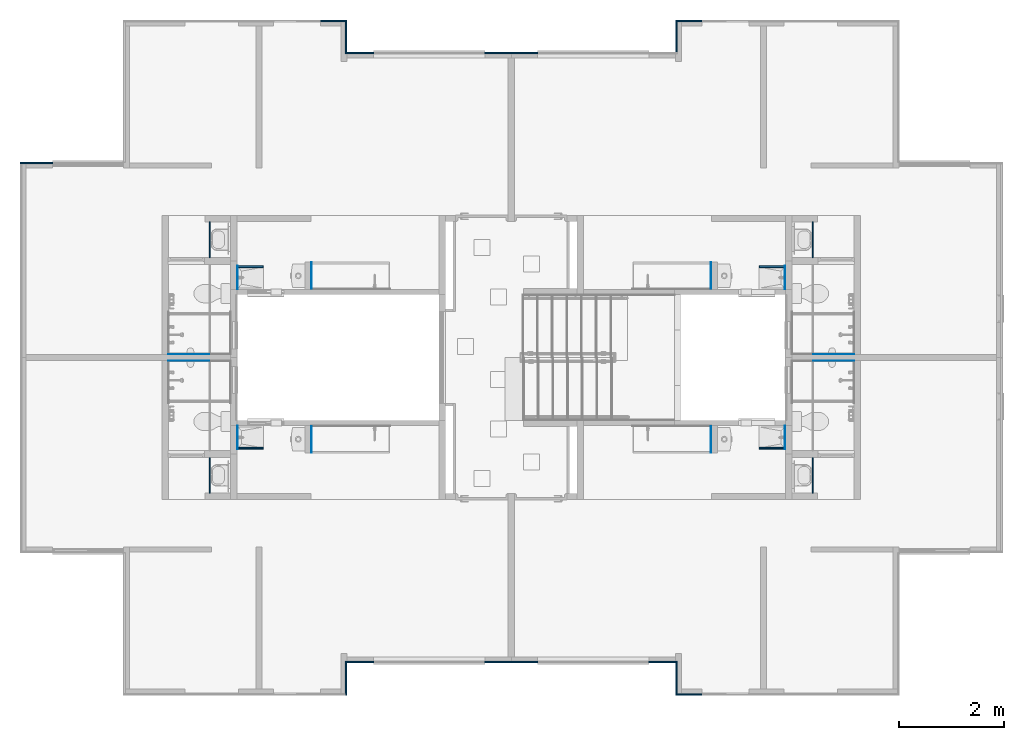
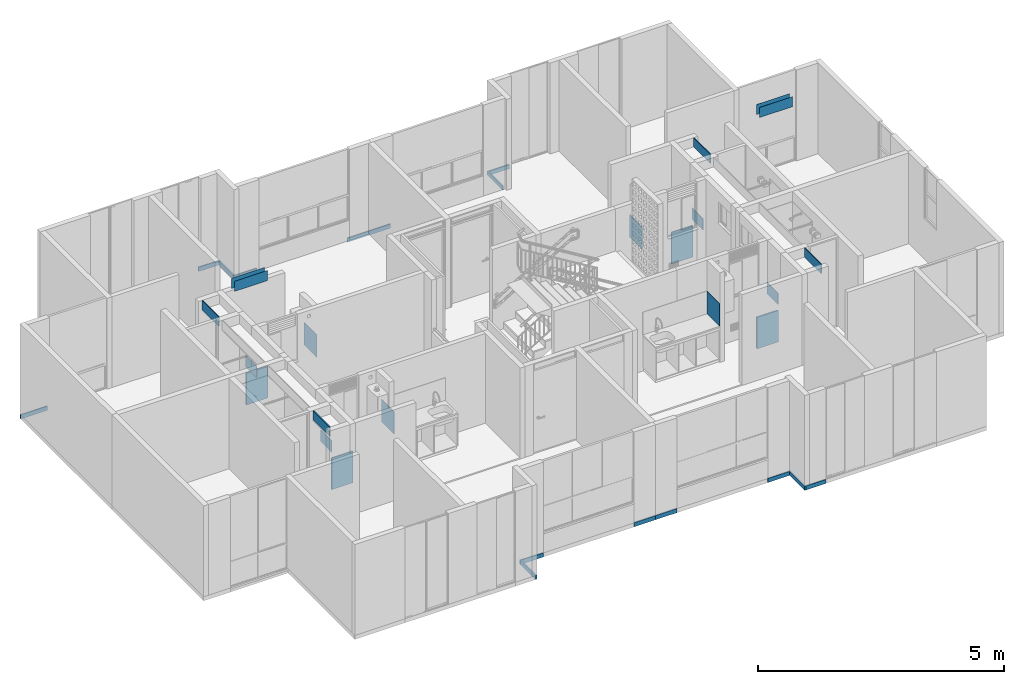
# One storey, part 27 of 48: 35 walls.
"""IFC4 building model written with IfcOpenShell, lengths in metres."""

from ifc_helpers import new_model, entity, si_unit, converted_unit, derived_unit, direction, frame, origin, place, context, subcontext, project, spatial, indexed_curve, outline, extrude, material, constituent, constituent_set, type_object, element, save


model = new_model("IFC4")

# Units and contexts
model_context = context("Model", 3, precision=1e-05, world=origin(), true_north=direction((6.123031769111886e-17, 1.0)))
body_context = subcontext(model_context, "Body", "Model", "MODEL_VIEW")
ifc_project = project(units=[si_unit("LENGTHUNIT", "METRE"), si_unit("AREAUNIT", "SQUARE_METRE"), si_unit("VOLUMEUNIT", "CUBIC_METRE"), converted_unit("PLANEANGLEUNIT", "DEGREE", entity("IfcRatioMeasure", 0.017453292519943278), si_unit("PLANEANGLEUNIT", "RADIAN"), dimensions=[0, 0, 0, 0, 0, 0, 0]), si_unit("MASSUNIT", "GRAM", prefix="KILO"), derived_unit("MASSDENSITYUNIT", [(si_unit("MASSUNIT", "GRAM", prefix="KILO"), 1), (si_unit("LENGTHUNIT", "METRE"), -3)]), derived_unit("IONCONCENTRATIONUNIT", [(si_unit("MASSUNIT", "GRAM", prefix="KILO"), 1), (si_unit("LENGTHUNIT", "METRE"), -3)]), derived_unit("MOMENTOFINERTIAUNIT", [(si_unit("LENGTHUNIT", "METRE"), 4)]), si_unit("TIMEUNIT", "SECOND"), si_unit("FREQUENCYUNIT", "HERTZ"), si_unit("THERMODYNAMICTEMPERATUREUNIT", "DEGREE_CELSIUS"), derived_unit("THERMALTRANSMITTANCEUNIT", [(si_unit("MASSUNIT", "GRAM", prefix="KILO"), 1), (si_unit("THERMODYNAMICTEMPERATUREUNIT", "KELVIN"), -1), (si_unit("TIMEUNIT", "SECOND"), -3)]), derived_unit("THERMALCONDUCTANCEUNIT", [(si_unit("MASSUNIT", "GRAM", prefix="KILO"), 1), (si_unit("THERMODYNAMICTEMPERATUREUNIT", "KELVIN"), -1), (si_unit("TIMEUNIT", "SECOND"), -3), (si_unit("LENGTHUNIT", "METRE"), 1)]), derived_unit("VOLUMETRICFLOWRATEUNIT", [(si_unit("LENGTHUNIT", "METRE"), 3), (si_unit("TIMEUNIT", "SECOND"), -1)]), derived_unit("MASSFLOWRATEUNIT", [(si_unit("MASSUNIT", "GRAM", prefix="KILO"), 1), (si_unit("TIMEUNIT", "SECOND"), -1)]), derived_unit("ROTATIONALFREQUENCYUNIT", [(si_unit("TIMEUNIT", "SECOND"), -1)]), si_unit("ELECTRICCURRENTUNIT", "AMPERE"), si_unit("ELECTRICVOLTAGEUNIT", "VOLT"), si_unit("POWERUNIT", "WATT"), si_unit("FORCEUNIT", "NEWTON", prefix="KILO"), si_unit("ILLUMINANCEUNIT", "LUX"), si_unit("LUMINOUSFLUXUNIT", "LUMEN"), si_unit("LUMINOUSINTENSITYUNIT", "CANDELA"), derived_unit("USERDEFINED", [(si_unit("MASSUNIT", "GRAM", prefix="KILO"), -1), (si_unit("LENGTHUNIT", "METRE"), -2), (si_unit("TIMEUNIT", "SECOND"), 3), (si_unit("LUMINOUSFLUXUNIT", "LUMEN"), 1)]), derived_unit("USERDEFINED", [(si_unit("MASSUNIT", "GRAM", prefix="KILO"), 1), (si_unit("TIMEUNIT", "SECOND"), -3), (si_unit("LENGTHUNIT", "METRE"), 3), (si_unit("ELECTRICCURRENTUNIT", "AMPERE"), -2)]), derived_unit("SOUNDPOWERUNIT", [(si_unit("MASSUNIT", "GRAM", prefix="KILO"), 1), (si_unit("TIMEUNIT", "SECOND"), -3), (si_unit("LENGTHUNIT", "METRE"), 2)]), derived_unit("SOUNDPRESSUREUNIT", [(si_unit("MASSUNIT", "GRAM", prefix="KILO"), 1), (si_unit("LENGTHUNIT", "METRE"), -1), (si_unit("TIMEUNIT", "SECOND"), -2)]), derived_unit("LINEARVELOCITYUNIT", [(si_unit("LENGTHUNIT", "METRE"), 1), (si_unit("TIMEUNIT", "SECOND"), -1)]), si_unit("PRESSUREUNIT", "PASCAL"), derived_unit("USERDEFINED", [(si_unit("MASSUNIT", "GRAM", prefix="KILO"), 1), (si_unit("LENGTHUNIT", "METRE"), -2), (si_unit("TIMEUNIT", "SECOND"), -2)]), derived_unit("LINEARFORCEUNIT", [(si_unit("MASSUNIT", "GRAM", prefix="KILO"), 1), (si_unit("TIMEUNIT", "SECOND"), -2)]), derived_unit("PLANARFORCEUNIT", [(si_unit("MASSUNIT", "GRAM", prefix="KILO"), 1), (si_unit("LENGTHUNIT", "METRE"), -1), (si_unit("TIMEUNIT", "SECOND"), -2)]), derived_unit("SPECIFICHEATCAPACITYUNIT", [(si_unit("THERMODYNAMICTEMPERATUREUNIT", "KELVIN"), -1), (si_unit("LENGTHUNIT", "METRE"), 2), (si_unit("TIMEUNIT", "SECOND"), -2)]), derived_unit("HEATINGVALUEUNIT", [(si_unit("LENGTHUNIT", "METRE"), 2), (si_unit("TIMEUNIT", "SECOND"), -2)]), derived_unit("VAPORPERMEABILITYUNIT", [(si_unit("LENGTHUNIT", "METRE"), -1), (si_unit("TIMEUNIT", "SECOND"), 1)]), derived_unit("DYNAMICVISCOSITYUNIT", [(si_unit("MASSUNIT", "GRAM", prefix="KILO"), 1), (si_unit("TIMEUNIT", "SECOND"), -1), (si_unit("LENGTHUNIT", "METRE"), -1)]), derived_unit("THERMALEXPANSIONCOEFFICIENTUNIT", [(si_unit("THERMODYNAMICTEMPERATUREUNIT", "KELVIN"), -1)]), derived_unit("MODULUSOFELASTICITYUNIT", [(si_unit("MASSUNIT", "GRAM", prefix="KILO"), 1), (si_unit("LENGTHUNIT", "METRE"), -1), (si_unit("TIMEUNIT", "SECOND"), -2)]), derived_unit("ISOTHERMALMOISTURECAPACITYUNIT", [(si_unit("LENGTHUNIT", "METRE"), 3), (si_unit("MASSUNIT", "GRAM", prefix="KILO"), -1)]), derived_unit("MOISTUREDIFFUSIVITYUNIT", [(si_unit("TIMEUNIT", "SECOND"), -1), (si_unit("LENGTHUNIT", "METRE"), 2)])], contexts=[model_context])

# Site, building, storey
site_placement = place(None, origin())
site = spatial("IfcSite", under=ifc_project, at=site_placement, Name="Default", CompositionType="ELEMENT")
building_placement = place(site_placement, origin())
building = spatial("IfcBuilding", under=site, at=building_placement, CompositionType="ELEMENT")
storey_placement = place(building_placement, frame((0.0, 0.0, 7.050000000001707)))
storey = spatial("IfcBuildingStorey", under=building, at=storey_placement, Name="Nivel 4", CompositionType="ELEMENT", Elevation=7.050000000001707)

# Walls
ifc_material_1 = material(Name="Plasterboard", Category="Materials")
wall_type_1 = type_object("IfcWallType", Name="Basic Wall:C1070 - 0.02m - Plafón - Drywall", PredefinedType="STANDARD")
wall_1_placement = place(storey_placement, frame((3.5624999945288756, -4.515000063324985, 2.019999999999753), z_axis=(0.0, 0.0, 1.0), x_axis=(0.0, 1.0, 0.0)))
element("IfcWall", 1, at=wall_1_placement, inside=storey, type_object=wall_type_1, material=ifc_material_1, Name="Basic Wall:C1070 - 0.02m - Plafón - Drywall", ObjectType="Basic Wall:C1070 - 0.02m - Plafón - Drywall", PredefinedType="NOTDEFINED", context=body_context, shape_type="SweptSolid", body=[
    extrude(outline(indexed_curve([(0.6800000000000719, 0.009999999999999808), (8.086221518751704e-17, 0.009999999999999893), (-8.086221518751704e-17, -0.009999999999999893), (0.6800000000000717, -0.009999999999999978), (0.6800000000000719, 0.009999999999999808)], self_intersect=False)), origin(), (0.0, 0.0, 1.0), 0.23000000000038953),
])
wall_2_placement = place(storey_placement, frame((3.5624999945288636, -8.334999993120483, 2.019999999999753), z_axis=(0.0, 0.0, 1.0), x_axis=(0.0, -1.0, 0.0)))
element("IfcWall", 2, at=wall_2_placement, inside=storey, type_object=wall_type_1, material=ifc_material_1, Name="Basic Wall:C1070 - 0.02m - Plafón - Drywall", ObjectType="Basic Wall:C1070 - 0.02m - Plafón - Drywall", PredefinedType="NOTDEFINED", context=body_context, shape_type="SweptSolid", body=[
    extrude(outline(indexed_curve([(0.6800000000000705, 0.009999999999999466), (-1.4500026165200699e-16, 0.009999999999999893), (1.4500026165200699e-16, -0.009999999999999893), (0.6800000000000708, -0.01000000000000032), (0.6800000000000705, 0.009999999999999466)], self_intersect=False)), origin(), (0.0, 0.0, 1.0), 0.23000000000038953),
])
wall_3_placement = place(storey_placement, frame((15.082500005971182, -4.515000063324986, 2.019999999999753), z_axis=(0.0, 0.0, 1.0), x_axis=(0.0, 1.0, 0.0)))
element("IfcWall", 3, at=wall_3_placement, inside=storey, type_object=wall_type_1, material=ifc_material_1, Name="Basic Wall:C1070 - 0.02m - Plafón - Drywall", ObjectType="Basic Wall:C1070 - 0.02m - Plafón - Drywall", PredefinedType="NOTDEFINED", context=body_context, shape_type="SweptSolid", body=[
    extrude(outline(indexed_curve([(0.6800000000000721, 0.01000000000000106), (-8.086221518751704e-17, 0.009999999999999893), (8.086221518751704e-17, -0.009999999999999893), (0.6800000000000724, -0.009999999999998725), (0.6800000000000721, 0.01000000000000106)], self_intersect=False)), origin(), (0.0, 0.0, 1.0), 0.23000000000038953),
])
wall_4_placement = place(storey_placement, frame((15.082500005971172, -8.334999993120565, 2.019999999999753), z_axis=(0.0, 0.0, 1.0), x_axis=(0.0, -1.0, 0.0)))
element("IfcWall", 4, at=wall_4_placement, inside=storey, type_object=wall_type_1, material=ifc_material_1, Name="Basic Wall:C1070 - 0.02m - Plafón - Drywall", ObjectType="Basic Wall:C1070 - 0.02m - Plafón - Drywall", PredefinedType="NOTDEFINED", context=body_context, shape_type="SweptSolid", body=[
    extrude(outline(indexed_curve([(0.6800000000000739, 0.009999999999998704), (1.74650790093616e-17, 0.009999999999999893), (-1.74650790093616e-17, -0.009999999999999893), (0.6800000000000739, -0.010000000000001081), (0.6800000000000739, 0.009999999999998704)], self_intersect=False)), origin(), (0.0, 0.0, 1.0), 0.23000000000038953),
])
ifc_material_2 = material(Name="Ceramica Salpicadero 0.28m x 0.45m", Category="Materials")
wall_type_2 = type_object("IfcWallType", Name="Basic Wall:C2010 - 0.28 x 0.45 - Salpicadero - Cerámica", PredefinedType="STANDARD")
wall_5_placement = place(storey_placement, frame((4.092499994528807, -4.67500002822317, 0.9299999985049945), z_axis=(0.0, 0.0, 1.0), x_axis=(0.0, -1.0, 0.0)))
element("IfcWall", 5, at=wall_5_placement, inside=storey, type_object=wall_type_2, material=ifc_material_2, Name="Basic Wall:C2010 - 0.28 x 0.45 - Salpicadero - Cerámica", ObjectType="Basic Wall:C2010 - 0.28 x 0.45 - Salpicadero - Cerámica", PredefinedType="NOTDEFINED", context=body_context, shape_type="SweptSolid", body=[
    extrude(outline(indexed_curve([(0.44949999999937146, 0.004999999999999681), (-8.738326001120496e-17, 0.004999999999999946), (8.738326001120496e-17, -0.004999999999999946), (0.4494999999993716, -0.005000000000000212), (0.44949999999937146, 0.004999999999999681)], self_intersect=False)), origin(), (0.0, 0.0, 1.0), 0.28000000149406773),
])
wall_6_placement = place(storey_placement, frame((4.092499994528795, -8.175000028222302, 0.9299999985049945), z_axis=(0.0, 0.0, 1.0), x_axis=(0.0, 1.0, 0.0)))
element("IfcWall", 6, at=wall_6_placement, inside=storey, type_object=wall_type_2, material=ifc_material_2, Name="Basic Wall:C2010 - 0.28 x 0.45 - Salpicadero - Cerámica", ObjectType="Basic Wall:C2010 - 0.28 x 0.45 - Salpicadero - Cerámica", PredefinedType="NOTDEFINED", context=body_context, shape_type="SweptSolid", body=[
    extrude(outline(indexed_curve([(0.4494999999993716, 0.004999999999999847), (5.531423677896e-17, 0.004999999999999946), (-5.531423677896e-17, -0.004999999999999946), (0.44949999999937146, -0.005000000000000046), (0.4494999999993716, 0.004999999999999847)], self_intersect=False)), origin(), (0.0, 0.0, 1.0), 0.28000000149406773),
])
wall_7_placement = place(storey_placement, frame((14.55250000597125, -4.67500002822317, 0.9299999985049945), z_axis=(0.0, 0.0, 1.0), x_axis=(0.0, -1.0, 0.0)))
element("IfcWall", 7, at=wall_7_placement, inside=storey, type_object=wall_type_2, material=ifc_material_2, Name="Basic Wall:C2010 - 0.28 x 0.45 - Salpicadero - Cerámica", ObjectType="Basic Wall:C2010 - 0.28 x 0.45 - Salpicadero - Cerámica", PredefinedType="NOTDEFINED", context=body_context, shape_type="SweptSolid", body=[
    extrude(outline(indexed_curve([(0.4494999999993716, 0.005000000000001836), (8.738326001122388e-17, 0.005000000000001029), (-8.738326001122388e-17, -0.005000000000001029), (0.44949999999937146, -0.005000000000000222), (0.4494999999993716, 0.005000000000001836)], self_intersect=False)), origin(), (0.0, 0.0, 1.0), 0.28000000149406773),
])
wall_8_placement = place(storey_placement, frame((14.55250000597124, -8.175000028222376, 0.9299999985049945), z_axis=(0.0, 0.0, 1.0), x_axis=(0.0, 1.0, 0.0)))
element("IfcWall", 8, at=wall_8_placement, inside=storey, type_object=wall_type_2, material=ifc_material_2, Name="Basic Wall:C2010 - 0.28 x 0.45 - Salpicadero - Cerámica", ObjectType="Basic Wall:C2010 - 0.28 x 0.45 - Salpicadero - Cerámica", PredefinedType="NOTDEFINED", context=body_context, shape_type="SweptSolid", body=[
    extrude(outline(indexed_curve([(0.4494999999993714, 0.005000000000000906), (-1.1908182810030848e-16, 0.005000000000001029), (1.1908182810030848e-16, -0.005000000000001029), (0.4494999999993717, -0.005000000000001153), (0.4494999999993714, 0.005000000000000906)], self_intersect=False)), origin(), (0.0, 0.0, 1.0), 0.28000000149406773),
])
wall_9_placement = place(storey_placement, frame((5.507499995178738, -4.605000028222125, 0.9299999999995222), z_axis=(0.0, 0.0, 1.0), x_axis=(0.0, -1.0, 0.0)))
element("IfcWall", 9, at=wall_9_placement, inside=storey, type_object=wall_type_2, material=ifc_material_2, Name="Basic Wall:C2010 - 0.28 x 0.45 - Salpicadero - Cerámica", ObjectType="Basic Wall:C2010 - 0.28 x 0.45 - Salpicadero - Cerámica", PredefinedType="NOTDEFINED", context=body_context, shape_type="SweptSolid", body=[
    extrude(outline(indexed_curve([(0.5100000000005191, 0.005000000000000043), (-2.217940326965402e-17, 0.004999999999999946), (2.217940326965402e-17, -0.004999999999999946), (0.5100000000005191, -0.00499999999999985), (0.5100000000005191, 0.005000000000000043)], self_intersect=False)), origin(), (0.0, 0.0, 1.0), 0.5599999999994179),
])
wall_10_placement = place(storey_placement, frame((5.507499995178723, -8.245000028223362, 0.9299999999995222), z_axis=(0.0, 0.0, 1.0), x_axis=(0.0, 1.0, 0.0)))
element("IfcWall", 10, at=wall_10_placement, inside=storey, type_object=wall_type_2, material=ifc_material_2, Name="Basic Wall:C2010 - 0.28 x 0.45 - Salpicadero - Cerámica", ObjectType="Basic Wall:C2010 - 0.28 x 0.45 - Salpicadero - Cerámica", PredefinedType="NOTDEFINED", context=body_context, shape_type="SweptSolid", body=[
    extrude(outline(indexed_curve([(0.5100000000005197, 0.0049999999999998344), (-9.519164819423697e-18, 0.004999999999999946), (9.519164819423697e-18, -0.004999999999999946), (0.5100000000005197, -0.005000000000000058), (0.5100000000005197, 0.0049999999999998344)], self_intersect=False)), origin(), (0.0, 0.0, 1.0), 0.5599999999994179),
])
wall_11_placement = place(storey_placement, frame((13.13750000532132, -4.605000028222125, 0.9299999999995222), z_axis=(0.0, 0.0, 1.0), x_axis=(0.0, -1.0, 0.0)))
element("IfcWall", 11, at=wall_11_placement, inside=storey, type_object=wall_type_2, material=ifc_material_2, Name="Basic Wall:C2010 - 0.28 x 0.45 - Salpicadero - Cerámica", ObjectType="Basic Wall:C2010 - 0.28 x 0.45 - Salpicadero - Cerámica", PredefinedType="NOTDEFINED", context=body_context, shape_type="SweptSolid", body=[
    extrude(outline(indexed_curve([(0.5100000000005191, 0.0050000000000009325), (2.2179403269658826e-17, 0.005000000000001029), (-2.2179403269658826e-17, -0.005000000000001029), (0.5100000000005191, -0.005000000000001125), (0.5100000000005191, 0.0050000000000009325)], self_intersect=False)), origin(), (0.0, 0.0, 1.0), 0.5599999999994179),
])
wall_12_placement = place(storey_placement, frame((13.137500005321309, -8.245000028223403, 0.9299999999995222), z_axis=(0.0, 0.0, 1.0), x_axis=(0.0, 1.0, 0.0)))
element("IfcWall", 12, at=wall_12_placement, inside=storey, type_object=wall_type_2, material=ifc_material_2, Name="Basic Wall:C2010 - 0.28 x 0.45 - Salpicadero - Cerámica", ObjectType="Basic Wall:C2010 - 0.28 x 0.45 - Salpicadero - Cerámica", PredefinedType="NOTDEFINED", context=body_context, shape_type="SweptSolid", body=[
    extrude(outline(indexed_curve([(0.5100000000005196, 0.00499999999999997), (-5.3311001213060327e-17, 0.005000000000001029), (5.3311001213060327e-17, -0.005000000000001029), (0.5100000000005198, -0.005000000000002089), (0.5100000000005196, 0.00499999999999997)], self_intersect=False)), origin(), (0.0, 0.0, 1.0), 0.5599999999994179),
])
ifc_material_3 = material(Name="Estuco y pintura", Category="Materials")
ifc_constituent_1 = constituent(ifc_material_3, Name="Estuco y pintura", Category="Materials")
ifc_material_4 = material(Name="0 muro divisorio", Category="Materials")
ifc_constituent_2 = constituent(ifc_material_4, Name="0 muro divisorio", Category="Materials")
ifc_constituent_3 = constituent(ifc_material_3, Name="Estuco y pintura (2)", Category="Materials")
ifc_constituent_set = constituent_set(constituents=[ifc_constituent_1, ifc_constituent_2, ifc_constituent_3], Name="Basic Wall:B2010 - 0.03m - Muro interior en estuco+pintura+ concreto+ estuco+ pintura")
wall_type_3 = type_object("IfcWallType", Name="Basic Wall:B2010 - 0.03m - Muro interior en estuco+pintura+ concreto+ estuco+ pintura", PredefinedType="STANDARD", material=ifc_constituent_set)
wall_13_placement = place(storey_placement, frame((4.087499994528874, -4.6920000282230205, 0.0)))
element("IfcWall", 13, at=wall_13_placement, inside=storey, type_object=wall_type_3, material=ifc_constituent_set, Name="Basic Wall:B2010 - 0.03m - Muro interior en estuco+pintura+ concreto+ estuco+ pintura", ObjectType="Basic Wall:B2010 - 0.03m - Muro interior en estuco+pintura+ concreto+ estuco+ pintura", PredefinedType="NOTDEFINED", context=body_context, shape_type="SweptSolid", body=[
    extrude(outline(indexed_curve([(-0.0009999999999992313, -0.25000023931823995), (0.0010000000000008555, -0.25000023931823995), (0.0009999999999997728, 0.2500002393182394), (-0.001000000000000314, 0.2500002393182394), (-0.0009999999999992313, -0.25000023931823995)], self_intersect=False)), frame((0.25000023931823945, -0.016000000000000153, 0.0), z_axis=(0.0, 0.0, 1.0), x_axis=(0.0, 1.0, 0.0)), (0.0, 0.0, 1.0), 0.7799999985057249),
    extrude(outline(indexed_curve([(-0.0009999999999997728, -0.25000023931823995), (0.001000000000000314, -0.25000023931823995), (0.0009999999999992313, 0.2500002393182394), (-0.0010000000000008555, 0.2500002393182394), (-0.0009999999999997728, -0.25000023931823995)], self_intersect=False)), frame((0.25000023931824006, 0.015999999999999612, 0.0), z_axis=(0.0, 0.0, 1.0), x_axis=(0.0, -1.0, 0.0)), (0.0, 0.0, 1.0), 0.7799999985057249),
    extrude(outline(indexed_curve([(-0.25000023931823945, -0.01500000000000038), (0.2500002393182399, -0.01500000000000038), (0.25000023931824, 0.014999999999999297), (-0.2500002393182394, 0.014999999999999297), (-0.25000023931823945, -0.01500000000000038)], self_intersect=False)), frame((0.25000023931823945, 0.0, 0.0)), (0.0, 0.0, 1.0), 0.7799999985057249),
])
wall_14_placement = place(storey_placement, frame((4.087499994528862, -8.158000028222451, 0.0)))
element("IfcWall", 14, at=wall_14_placement, inside=storey, type_object=wall_type_3, material=ifc_constituent_set, Name="Basic Wall:B2010 - 0.03m - Muro interior en estuco+pintura+ concreto+ estuco+ pintura", ObjectType="Basic Wall:B2010 - 0.03m - Muro interior en estuco+pintura+ concreto+ estuco+ pintura", PredefinedType="NOTDEFINED", context=body_context, shape_type="SweptSolid", body=[
    extrude(outline(indexed_curve([(-0.0010000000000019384, -0.25000023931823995), (0.0009999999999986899, -0.25000023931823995), (0.0010000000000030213, 0.2500002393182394), (-0.000999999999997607, 0.2500002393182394), (-0.0010000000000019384, -0.25000023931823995)], self_intersect=False)), frame((0.2500002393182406, 0.016000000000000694, 0.0), z_axis=(0.0, 0.0, 1.0), x_axis=(0.0, -1.0, 0.0)), (0.0, 0.0, 1.0), 0.7799999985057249),
    extrude(outline(indexed_curve([(-0.0010000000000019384, -0.25000023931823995), (0.000999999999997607, -0.25000023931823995), (0.0010000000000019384, 0.2500002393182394), (-0.000999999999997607, 0.2500002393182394), (-0.0010000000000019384, -0.25000023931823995)], self_intersect=False)), frame((0.25000023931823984, -0.015999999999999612, 0.0), z_axis=(0.0, 0.0, 1.0), x_axis=(0.0, 1.0, 0.0)), (0.0, 0.0, 1.0), 0.7799999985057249),
    extrude(outline(indexed_curve([(-0.25000023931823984, -0.014999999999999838), (0.25000023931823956, -0.014999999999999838), (0.25000023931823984, 0.014999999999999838), (-0.25000023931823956, 0.014999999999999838), (-0.25000023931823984, -0.014999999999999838)], self_intersect=False)), frame((0.25000023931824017, 0.0, 0.0)), (0.0, 0.0, 1.0), 0.7799999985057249),
])
wall_15_placement = place(storey_placement, frame((14.557500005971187, -4.6920000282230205, 0.0), z_axis=(0.0, 0.0, 1.0), x_axis=(-1.0, 0.0, 0.0)))
element("IfcWall", 15, at=wall_15_placement, inside=storey, type_object=wall_type_3, material=ifc_constituent_set, Name="Basic Wall:B2010 - 0.03m - Muro interior en estuco+pintura+ concreto+ estuco+ pintura", ObjectType="Basic Wall:B2010 - 0.03m - Muro interior en estuco+pintura+ concreto+ estuco+ pintura", PredefinedType="NOTDEFINED", context=body_context, shape_type="SweptSolid", body=[
    extrude(outline(indexed_curve([(-0.0010000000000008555, -0.25000023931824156), (0.0009999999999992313, -0.25000023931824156), (0.001000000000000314, 0.2500002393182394), (-0.0009999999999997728, 0.2500002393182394), (-0.0010000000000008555, -0.25000023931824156)], self_intersect=False)), frame((0.25000023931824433, 0.015999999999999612, 0.0), z_axis=(0.0, 0.0, 1.0), x_axis=(0.0, -1.0, 0.0)), (0.0, 0.0, 1.0), 0.7799999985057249),
    extrude(outline(indexed_curve([(-0.001000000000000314, -0.25000023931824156), (0.0009999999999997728, -0.25000023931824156), (0.0010000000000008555, 0.25000023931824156), (-0.0009999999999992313, 0.25000023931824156), (-0.001000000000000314, -0.25000023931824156)], self_intersect=False)), frame((0.2500002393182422, -0.016000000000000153, 0.0), z_axis=(0.0, 0.0, 1.0), x_axis=(0.0, 1.0, 0.0)), (0.0, 0.0, 1.0), 0.7799999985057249),
    extrude(outline(indexed_curve([(-0.25000023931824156, -0.01500000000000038), (0.2500002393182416, -0.01500000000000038), (0.25000023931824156, 0.014999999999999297), (-0.25000023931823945, 0.014999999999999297), (-0.25000023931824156, -0.01500000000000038)], self_intersect=False)), frame((0.25000023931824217, 0.0, 0.0)), (0.0, 0.0, 1.0), 0.7799999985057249),
])
wall_16_placement = place(storey_placement, frame((14.557500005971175, -8.158000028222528, 0.0), z_axis=(0.0, 0.0, 1.0), x_axis=(-1.0, 0.0, 0.0)))
element("IfcWall", 16, at=wall_16_placement, inside=storey, type_object=wall_type_3, material=ifc_constituent_set, Name="Basic Wall:B2010 - 0.03m - Muro interior en estuco+pintura+ concreto+ estuco+ pintura", ObjectType="Basic Wall:B2010 - 0.03m - Muro interior en estuco+pintura+ concreto+ estuco+ pintura", PredefinedType="NOTDEFINED", context=body_context, shape_type="SweptSolid", body=[
    extrude(outline(indexed_curve([(-0.0010000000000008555, -0.2500002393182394), (0.0009999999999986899, -0.2500002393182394), (0.0010000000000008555, 0.2500002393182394), (-0.0009999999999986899, 0.2500002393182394), (-0.0010000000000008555, -0.2500002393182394)], self_intersect=False)), frame((0.25000023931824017, -0.015999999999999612, 0.0), z_axis=(0.0, 0.0, 1.0), x_axis=(0.0, 1.0, 0.0)), (0.0, 0.0, 1.0), 0.7799999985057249),
    extrude(outline(indexed_curve([(-0.0010000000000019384, -0.2500002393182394), (0.0009999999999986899, -0.2500002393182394), (0.0010000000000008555, 0.2500002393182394), (-0.0009999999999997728, 0.2500002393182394), (-0.0010000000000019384, -0.2500002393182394)], self_intersect=False)), frame((0.25000023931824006, 0.015999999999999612, 0.0), z_axis=(0.0, 0.0, 1.0), x_axis=(0.0, -1.0, 0.0)), (0.0, 0.0, 1.0), 0.7799999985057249),
    extrude(outline(indexed_curve([(-0.25000023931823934, -0.014999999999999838), (0.25000023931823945, -0.014999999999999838), (0.25000023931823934, 0.014999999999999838), (-0.25000023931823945, 0.014999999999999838), (-0.25000023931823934, -0.014999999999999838)], self_intersect=False)), frame((0.2500002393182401, 0.0, 0.0)), (0.0, 0.0, 1.0), 0.7799999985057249),
])
ifc_material_5 = material(Name="LADRILLO CLARO", Category="Materials")
wall_type_4 = type_object("IfcWallType", Name="Basic Wall:B2010 - 0.03m - ME enchape  no estructural - Ladrillo", PredefinedType="STANDARD")
wall_17_placement = place(storey_placement, frame((9.322500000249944, -0.6100000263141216, -0.10000000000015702), z_axis=(0.0, 0.0, 1.0), x_axis=(-1.0, 0.0, 0.0)))
element("IfcWall", 17, at=wall_17_placement, inside=storey, type_object=wall_type_4, material=ifc_material_5, Name="Basic Wall:B2010 - 0.03m - ME enchape  no estructural - Ladrillo", ObjectType="Basic Wall:B2010 - 0.03m - ME enchape  no estructural - Ladrillo", PredefinedType="NOTDEFINED", context=body_context, shape_type="SweptSolid", body=[
    extrude(outline(indexed_curve([(0.5049999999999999, 0.015000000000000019), (-5.3566291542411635e-17, 0.014999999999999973), (5.3566291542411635e-17, -0.014999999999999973), (0.505, -0.014999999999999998), (0.5049999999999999, 0.015000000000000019)], self_intersect=False)), origin(), (0.0, 0.0, 1.0), 0.09999999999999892),
])
wall_18_placement = place(storey_placement, frame((6.167499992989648, -0.5950000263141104, -0.10000000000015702), z_axis=(0.0, 0.0, 1.0), x_axis=(0.0, 1.0, 0.0)))
element("IfcWall", 18, at=wall_18_placement, inside=storey, type_object=wall_type_4, material=ifc_material_5, Name="Basic Wall:B2010 - 0.03m - ME enchape  no estructural - Ladrillo", ObjectType="Basic Wall:B2010 - 0.03m - ME enchape  no estructural - Ladrillo", PredefinedType="NOTDEFINED", context=body_context, shape_type="SweptSolid", body=[
    extrude(outline(indexed_curve([(0.6150000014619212, 0.014999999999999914), (-1.83697019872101e-18, 0.014999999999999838), (1.83697019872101e-18, -0.014999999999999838), (0.6150000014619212, -0.014999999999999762), (0.6150000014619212, 0.014999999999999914)], self_intersect=False)), origin(), (0.0, 0.0, 1.0), 0.09999999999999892),
])
wall_19_placement = place(storey_placement, frame((6.1524999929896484, 0.004999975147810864, -0.10000000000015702), z_axis=(0.0, 0.0, 1.0), x_axis=(-1.0, 0.0, 0.0)))
element("IfcWall", 19, at=wall_19_placement, inside=storey, type_object=wall_type_4, material=ifc_material_5, Name="Basic Wall:B2010 - 0.03m - ME enchape  no estructural - Ladrillo", ObjectType="Basic Wall:B2010 - 0.03m - ME enchape  no estructural - Ladrillo", PredefinedType="NOTDEFINED", context=body_context, shape_type="SweptSolid", body=[
    extrude(outline(indexed_curve([(0.46999999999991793, 0.015), (-1.4243869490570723e-16, 0.015), (1.4243869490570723e-16, -0.015), (0.4699999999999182, -0.015), (0.46999999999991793, 0.015)], self_intersect=False)), origin(), (0.0, 0.0, 1.0), 0.09999999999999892),
])
wall_20_placement = place(storey_placement, frame((-0.05749999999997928, -2.710000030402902, -0.10000000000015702)))
element("IfcWall", 20, at=wall_20_placement, inside=storey, type_object=wall_type_4, material=ifc_material_5, Name="Basic Wall:B2010 - 0.03m - ME enchape  no estructural - Ladrillo", ObjectType="Basic Wall:B2010 - 0.03m - ME enchape  no estructural - Ladrillo", PredefinedType="NOTDEFINED", context=body_context, shape_type="SweptSolid", body=[
    extrude(outline(indexed_curve([(0.6249999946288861, 0.014999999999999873), (2.443197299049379e-18, 0.014999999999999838), (-2.443197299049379e-18, -0.014999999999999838), (0.6249999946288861, -0.014999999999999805), (0.6249999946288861, 0.014999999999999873)], self_intersect=False)), origin(), (0.0, 0.0, 1.0), 0.09999999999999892),
])
wall_21_placement = place(storey_placement, frame((9.322500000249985, -12.240000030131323, -0.10000000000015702), z_axis=(0.0, 0.0, 1.0), x_axis=(-1.0, 0.0, 0.0)))
element("IfcWall", 21, at=wall_21_placement, inside=storey, type_object=wall_type_4, material=ifc_material_5, Name="Basic Wall:B2010 - 0.03m - ME enchape  no estructural - Ladrillo", ObjectType="Basic Wall:B2010 - 0.03m - ME enchape  no estructural - Ladrillo", PredefinedType="NOTDEFINED", context=body_context, shape_type="SweptSolid", body=[
    extrude(outline(indexed_curve([(0.505, 0.015000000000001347), (5.1729321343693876e-17, 0.015000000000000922), (-5.1729321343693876e-17, -0.015000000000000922), (0.5049999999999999, -0.015000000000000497), (0.505, 0.015000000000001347)], self_intersect=False)), origin(), (0.0, 0.0, 1.0), 0.09999999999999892),
])
wall_22_placement = place(storey_placement, frame((6.167499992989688, -12.255000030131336, -0.10000000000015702), z_axis=(0.0, 0.0, 1.0), x_axis=(0.0, -1.0, 0.0)))
element("IfcWall", 22, at=wall_22_placement, inside=storey, type_object=wall_type_4, material=ifc_material_5, Name="Basic Wall:B2010 - 0.03m - ME enchape  no estructural - Ladrillo", ObjectType="Basic Wall:B2010 - 0.03m - ME enchape  no estructural - Ladrillo", PredefinedType="NOTDEFINED", context=body_context, shape_type="SweptSolid", body=[
    extrude(outline(indexed_curve([(0.6150000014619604, 0.014999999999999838), (0.0, 0.014999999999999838), (0.0, -0.014999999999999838), (0.6150000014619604, -0.014999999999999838), (0.6150000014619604, 0.014999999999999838)], self_intersect=False)), origin(), (0.0, 0.0, 1.0), 0.09999999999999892),
])
wall_23_placement = place(storey_placement, frame((9.322500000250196, -0.6100000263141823, -0.10000000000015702)))
element("IfcWall", 23, at=wall_23_placement, inside=storey, type_object=wall_type_4, material=ifc_material_5, Name="Basic Wall:B2010 - 0.03m - ME enchape  no estructural - Ladrillo", ObjectType="Basic Wall:B2010 - 0.03m - ME enchape  no estructural - Ladrillo", PredefinedType="NOTDEFINED", context=body_context, shape_type="SweptSolid", body=[
    extrude(outline(indexed_curve([(0.5049999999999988, 0.014999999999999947), (-4.7460613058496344e-17, 0.014999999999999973), (4.7460613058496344e-17, -0.014999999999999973), (0.504999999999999, -0.015000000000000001), (0.5049999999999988, 0.014999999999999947)], self_intersect=False)), origin(), (0.0, 0.0, 1.0), 0.09999999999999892),
])
wall_24_placement = place(storey_placement, frame((12.47750000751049, -0.5950000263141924, -0.10000000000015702), z_axis=(0.0, 0.0, 1.0), x_axis=(0.0, 1.0, 0.0)))
element("IfcWall", 24, at=wall_24_placement, inside=storey, type_object=wall_type_4, material=ifc_material_5, Name="Basic Wall:B2010 - 0.03m - ME enchape  no estructural - Ladrillo", ObjectType="Basic Wall:B2010 - 0.03m - ME enchape  no estructural - Ladrillo", PredefinedType="NOTDEFINED", context=body_context, shape_type="SweptSolid", body=[
    extrude(outline(indexed_curve([(0.6150000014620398, 0.015000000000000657), (-3.151073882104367e-17, 0.015000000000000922), (3.151073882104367e-17, -0.015000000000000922), (0.6150000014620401, -0.015000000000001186), (0.6150000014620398, 0.015000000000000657)], self_intersect=False)), origin(), (0.0, 0.0, 1.0), 0.09999999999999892),
])
wall_25_placement = place(storey_placement, frame((12.492500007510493, 0.0049999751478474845, -0.10000000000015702)))
element("IfcWall", 25, at=wall_25_placement, inside=storey, type_object=wall_type_4, material=ifc_material_5, Name="Basic Wall:B2010 - 0.03m - ME enchape  no estructural - Ladrillo", ObjectType="Basic Wall:B2010 - 0.03m - ME enchape  no estructural - Ladrillo", PredefinedType="NOTDEFINED", context=body_context, shape_type="SweptSolid", body=[
    extrude(outline(indexed_curve([(0.4699999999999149, 0.015), (4.3864338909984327e-17, 0.015), (-4.3864338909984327e-17, -0.015), (0.46999999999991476, -0.015), (0.4699999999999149, 0.015)], self_intersect=False)), origin(), (0.0, 0.0, 1.0), 0.09999999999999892),
])
wall_26_placement = place(storey_placement, frame((9.322500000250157, -12.240000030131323, -0.10000000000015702)))
element("IfcWall", 26, at=wall_26_placement, inside=storey, type_object=wall_type_4, material=ifc_material_5, Name="Basic Wall:B2010 - 0.03m - ME enchape  no estructural - Ladrillo", ObjectType="Basic Wall:B2010 - 0.03m - ME enchape  no estructural - Ladrillo", PredefinedType="NOTDEFINED", context=body_context, shape_type="SweptSolid", body=[
    extrude(outline(indexed_curve([(0.5049999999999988, 0.015000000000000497), (-5.1729321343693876e-17, 0.015000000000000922), (5.1729321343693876e-17, -0.015000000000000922), (0.504999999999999, -0.015000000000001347), (0.5049999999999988, 0.015000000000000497)], self_intersect=False)), origin(), (0.0, 0.0, 1.0), 0.09999999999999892),
])
wall_27_placement = place(storey_placement, frame((12.477500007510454, -12.255000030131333, -0.10000000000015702), z_axis=(0.0, 0.0, 1.0), x_axis=(0.0, -1.0, 0.0)))
element("IfcWall", 27, at=wall_27_placement, inside=storey, type_object=wall_type_4, material=ifc_material_5, Name="Basic Wall:B2010 - 0.03m - ME enchape  no estructural - Ladrillo", ObjectType="Basic Wall:B2010 - 0.03m - ME enchape  no estructural - Ladrillo", PredefinedType="NOTDEFINED", context=body_context, shape_type="SweptSolid", body=[
    extrude(outline(indexed_curve([(0.6150000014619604, 0.015000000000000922), (0.0, 0.015000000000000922), (0.0, -0.015000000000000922), (0.6150000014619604, -0.015000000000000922), (0.6150000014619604, 0.015000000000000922)], self_intersect=False)), origin(), (0.0, 0.0, 1.0), 0.09999999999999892),
])
wall_28_placement = place(storey_placement, frame((12.492500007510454, -12.855000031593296, -0.10000000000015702)))
element("IfcWall", 28, at=wall_28_placement, inside=storey, type_object=wall_type_4, material=ifc_material_5, Name="Basic Wall:B2010 - 0.03m - ME enchape  no estructural - Ladrillo", ObjectType="Basic Wall:B2010 - 0.03m - ME enchape  no estructural - Ladrillo", PredefinedType="NOTDEFINED", context=body_context, shape_type="SweptSolid", body=[
    extrude(outline(indexed_curve([(0.4699999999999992, 0.015000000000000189), (-4.570130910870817e-17, 0.015000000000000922), (4.570130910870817e-17, -0.015000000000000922), (0.46999999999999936, -0.015000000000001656), (0.4699999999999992, 0.015000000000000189)], self_intersect=False)), origin(), (0.0, 0.0, 1.0), 0.09999999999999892),
])
wall_29_placement = place(storey_placement, frame((6.6924999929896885, -12.240000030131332, -0.10000000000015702), z_axis=(0.0, 0.0, 1.0), x_axis=(-1.0, 0.0, 0.0)))
element("IfcWall", 29, at=wall_29_placement, inside=storey, type_object=wall_type_4, material=ifc_material_5, Name="Basic Wall:B2010 - 0.03m - ME enchape  no estructural - Ladrillo", ObjectType="Basic Wall:B2010 - 0.03m - ME enchape  no estructural - Ladrillo", PredefinedType="NOTDEFINED", context=body_context, shape_type="SweptSolid", body=[
    extrude(outline(indexed_curve([(0.5399999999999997, 0.015000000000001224), (5.1729321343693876e-17, 0.015000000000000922), (-5.1729321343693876e-17, -0.015000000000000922), (0.5399999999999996, -0.015000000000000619), (0.5399999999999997, 0.015000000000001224)], self_intersect=False)), origin(), (0.0, 0.0, 1.0), 0.09999999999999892),
])
wall_30_placement = place(storey_placement, frame((11.952500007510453, -12.240000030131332, -0.10000000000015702)))
element("IfcWall", 30, at=wall_30_placement, inside=storey, type_object=wall_type_4, material=ifc_material_5, Name="Basic Wall:B2010 - 0.03m - ME enchape  no estructural - Ladrillo", ObjectType="Basic Wall:B2010 - 0.03m - ME enchape  no estructural - Ladrillo", PredefinedType="NOTDEFINED", context=body_context, shape_type="SweptSolid", body=[
    extrude(outline(indexed_curve([(0.5400000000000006, 0.015000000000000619), (-5.1729321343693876e-17, 0.015000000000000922), (5.1729321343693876e-17, -0.015000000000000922), (0.5400000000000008, -0.015000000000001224), (0.5400000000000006, 0.015000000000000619)], self_intersect=False)), origin(), (0.0, 0.0, 1.0), 0.09999999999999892),
])
wall_31_placement = place(storey_placement, frame((6.6924999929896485, -0.6100000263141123, -0.10000000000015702), z_axis=(0.0, 0.0, 1.0), x_axis=(-1.0, 0.0, 0.0)))
element("IfcWall", 31, at=wall_31_placement, inside=storey, type_object=wall_type_4, material=ifc_material_5, Name="Basic Wall:B2010 - 0.03m - ME enchape  no estructural - Ladrillo", ObjectType="Basic Wall:B2010 - 0.03m - ME enchape  no estructural - Ladrillo", PredefinedType="NOTDEFINED", context=body_context, shape_type="SweptSolid", body=[
    extrude(outline(indexed_curve([(0.5399999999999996, 0.014999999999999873), (-5.3566291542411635e-17, 0.014999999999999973), (5.356629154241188e-17, -0.015000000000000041), (0.5399999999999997, -0.015000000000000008), (0.5399999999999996, 0.014999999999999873)], self_intersect=False)), origin(), (0.0, 0.0, 1.0), 0.09999999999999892),
])
ifc_material_6 = material(Name="Repello y pintura", Category="Materials")
wall_type_5 = type_object("IfcWallType", Name="Basic Wall:C2010 - 0.002m - MI acabado de muro- Estuco+ pintura", PredefinedType="STANDARD")
wall_32_placement = place(storey_placement, frame((2.7775010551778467, -6.364000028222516, 4.350000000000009)))
element("IfcWall", 32, at=wall_32_placement, inside=storey, type_object=wall_type_5, material=ifc_material_6, Name="Basic Wall:C2010 - 0.002m - MI acabado de muro- Estuco+ pintura", ObjectType="Basic Wall:C2010 - 0.002m - MI acabado de muro- Estuco+ pintura", PredefinedType="NOTDEFINED", context=body_context, shape_type="SweptSolid", body=[
    extrude(outline(indexed_curve([(0.7749989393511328, 0.0009999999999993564), (-3.654659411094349e-18, 0.0009999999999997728), (3.654659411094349e-18, -0.0009999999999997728), (0.7749989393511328, -0.0010000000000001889), (0.7749989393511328, 0.0009999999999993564)], self_intersect=False)), origin(), (0.0, 0.0, 1.0), 0.2500000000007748),
])
wall_33_placement = place(storey_placement, frame((2.7775010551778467, -6.486000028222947, 4.350000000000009)))
element("IfcWall", 33, at=wall_33_placement, inside=storey, type_object=wall_type_5, material=ifc_material_6, Name="Basic Wall:C2010 - 0.002m - MI acabado de muro- Estuco+ pintura", ObjectType="Basic Wall:C2010 - 0.002m - MI acabado de muro- Estuco+ pintura", PredefinedType="NOTDEFINED", context=body_context, shape_type="SweptSolid", body=[
    extrude(outline(indexed_curve([(0.7749989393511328, 0.0009999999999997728), (-2.7944996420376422e-18, 0.0009999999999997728), (2.7944996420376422e-18, -0.0009999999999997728), (0.7749989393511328, -0.0009999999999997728), (0.7749989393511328, 0.0009999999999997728)], self_intersect=False)), origin(), (0.0, 0.0, 1.0), 0.2500000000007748),
])
wall_34_placement = place(storey_placement, frame((15.86749894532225, -6.364000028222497, 4.350000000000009), z_axis=(0.0, 0.0, 1.0), x_axis=(-1.0, 0.0, 0.0)))
element("IfcWall", 34, at=wall_34_placement, inside=storey, type_object=wall_type_5, material=ifc_material_6, Name="Basic Wall:C2010 - 0.002m - MI acabado de muro- Estuco+ pintura", ObjectType="Basic Wall:C2010 - 0.002m - MI acabado de muro- Estuco+ pintura", PredefinedType="NOTDEFINED", context=body_context, shape_type="SweptSolid", body=[
    extrude(outline(indexed_curve([(0.7749989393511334, 0.0009999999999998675), (-2.916964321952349e-18, 0.0009999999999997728), (2.916964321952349e-18, -0.0009999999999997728), (0.7749989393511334, -0.0009999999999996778), (0.7749989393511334, 0.0009999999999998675)], self_intersect=False)), origin(), (0.0, 0.0, 1.0), 0.2500000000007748),
])
wall_35_placement = place(storey_placement, frame((15.867498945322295, -6.486000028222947, 4.350000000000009), z_axis=(0.0, 0.0, 1.0), x_axis=(-1.0, 0.0, 0.0)))
element("IfcWall", 35, at=wall_35_placement, inside=storey, type_object=wall_type_5, material=ifc_material_6, Name="Basic Wall:C2010 - 0.002m - MI acabado de muro- Estuco+ pintura", ObjectType="Basic Wall:C2010 - 0.002m - MI acabado de muro- Estuco+ pintura", PredefinedType="NOTDEFINED", context=body_context, shape_type="SweptSolid", body=[
    extrude(outline(indexed_curve([(0.7749989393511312, 0.0009999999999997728), (2.7944996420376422e-18, 0.0009999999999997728), (-2.7944996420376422e-18, -0.0009999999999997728), (0.7749989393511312, -0.0009999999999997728), (0.7749989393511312, 0.0009999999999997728)], self_intersect=False)), origin(), (0.0, 0.0, 1.0), 0.2500000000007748),
])

save(model, "model.ifc")
